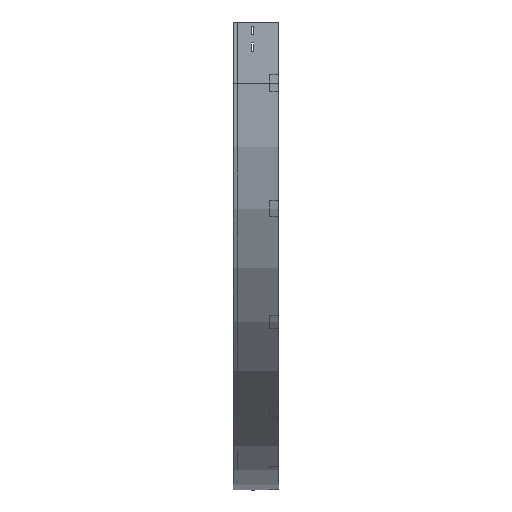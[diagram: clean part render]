
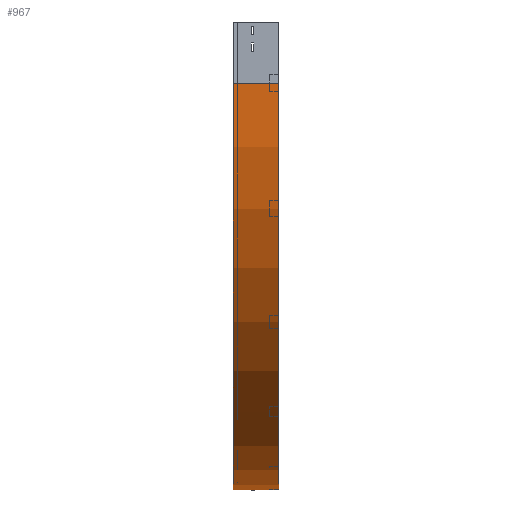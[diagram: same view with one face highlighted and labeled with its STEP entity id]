
A CAD part, left-side view. The second image highlights one B-rep face of the part: STEP entity #967.
In plain terms, the highlighted cylindrical face has radius 1000 mm (diameter 2000 mm), a partial arc.
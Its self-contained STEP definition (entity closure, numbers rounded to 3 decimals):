
#146 = CARTESIAN_POINT ( 'NONE',  ( 1000., 0., -150. ) ) ;
#262 = AXIS2_PLACEMENT_3D ( 'NONE', #146, #3790, #1096 ) ;
#287 = VERTEX_POINT ( 'NONE', #1798 ) ;
#451 = CARTESIAN_POINT ( 'NONE',  ( 1000., 0., -1150. ) ) ;
#485 = VECTOR ( 'NONE', #2835, 1000. ) ;
#508 = EDGE_CURVE ( 'NONE', #2084, #1926, #3396, .T. ) ;
#640 = ORIENTED_EDGE ( 'NONE', *, *, #508, .T. ) ;
#788 = FACE_OUTER_BOUND ( 'NONE', #2066, .T. ) ;
#886 = ORIENTED_EDGE ( 'NONE', *, *, #2550, .F. ) ;
#967 = ADVANCED_FACE ( 'NONE', ( #788 ), #1389, .T. ) ;
#977 = CARTESIAN_POINT ( 'NONE',  ( 0., 0., -150. ) ) ;
#1096 = DIRECTION ( 'NONE',  ( 0., 0., -1. ) ) ;
#1227 = DIRECTION ( 'NONE',  ( -1., 0., 0. ) ) ;
#1277 = EDGE_CURVE ( 'NONE', #287, #3214, #1827, .T. ) ;
#1333 = DIRECTION ( 'NONE',  ( 0., -1., 0. ) ) ;
#1389 = CYLINDRICAL_SURFACE ( 'NONE', #262, 1000. ) ;
#1409 = ORIENTED_EDGE ( 'NONE', *, *, #3308, .T. ) ;
#1632 = VECTOR ( 'NONE', #2447, 1000. ) ;
#1668 = DIRECTION ( 'NONE',  ( -1., 0., 0. ) ) ;
#1798 = CARTESIAN_POINT ( 'NONE',  ( 0., 112.5, -150. ) ) ;
#1824 = AXIS2_PLACEMENT_3D ( 'NONE', #1969, #1333, #1668 ) ;
#1827 = LINE ( 'NONE', #977, #1632 ) ;
#1897 = CARTESIAN_POINT ( 'NONE',  ( 1000., 112.5, -1150. ) ) ;
#1926 = VERTEX_POINT ( 'NONE', #3815 ) ;
#1969 = CARTESIAN_POINT ( 'NONE',  ( 1000., 0., -150. ) ) ;
#1982 = CARTESIAN_POINT ( 'NONE',  ( 0., 0., -150. ) ) ;
#2015 = CIRCLE ( 'NONE', #1824, 1000. ) ;
#2066 = EDGE_LOOP ( 'NONE', ( #886, #2284, #1409, #640 ) ) ;
#2084 = VERTEX_POINT ( 'NONE', #1897 ) ;
#2284 = ORIENTED_EDGE ( 'NONE', *, *, #1277, .F. ) ;
#2447 = DIRECTION ( 'NONE',  ( 0., -1., 0. ) ) ;
#2458 = DIRECTION ( 'NONE',  ( 0., -1., 0. ) ) ;
#2468 = CIRCLE ( 'NONE', #2851, 1000. ) ;
#2550 = EDGE_CURVE ( 'NONE', #3214, #1926, #2015, .T. ) ;
#2708 = CARTESIAN_POINT ( 'NONE',  ( 1000., 112.5, -150. ) ) ;
#2835 = DIRECTION ( 'NONE',  ( 0., -1., 0. ) ) ;
#2851 = AXIS2_PLACEMENT_3D ( 'NONE', #2708, #2458, #1227 ) ;
#3214 = VERTEX_POINT ( 'NONE', #1982 ) ;
#3308 = EDGE_CURVE ( 'NONE', #287, #2084, #2468, .T. ) ;
#3396 = LINE ( 'NONE', #451, #485 ) ;
#3790 = DIRECTION ( 'NONE',  ( 0., -1., 0. ) ) ;
#3815 = CARTESIAN_POINT ( 'NONE',  ( 1000., 0., -1150. ) ) ;
